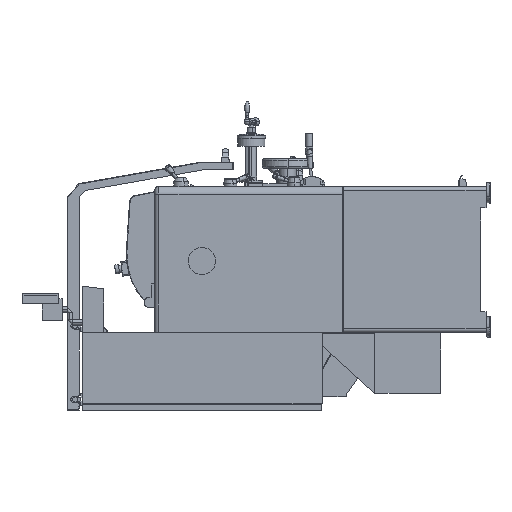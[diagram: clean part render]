
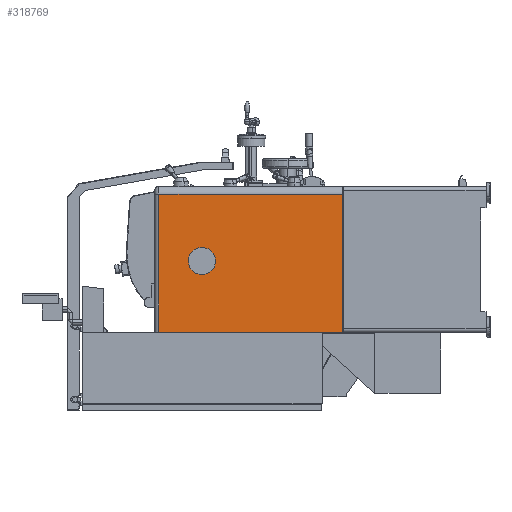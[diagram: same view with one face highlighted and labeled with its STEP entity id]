
A CAD part, left-side view. The second image highlights one B-rep face of the part: STEP entity #318769.
In plain terms, the highlighted planar face has unit normal (-1, 0, 0).
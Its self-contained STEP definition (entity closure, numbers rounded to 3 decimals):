
#1965 = DIRECTION ( 'NONE',  ( 0., 1., 0. ) ) ;
#19599 = CARTESIAN_POINT ( 'NONE',  ( -0.039, 22.047, -21.713 ) ) ;
#22922 = CARTESIAN_POINT ( 'NONE',  ( -0.039, 22.047, -21.713 ) ) ;
#28905 = VERTEX_POINT ( 'NONE', #337011 ) ;
#40050 = CARTESIAN_POINT ( 'NONE',  ( -0.039, 22.047, -21.713 ) ) ;
#42541 = DIRECTION ( 'NONE',  ( 1., 0., 0. ) ) ;
#50753 = LINE ( 'NONE', #113133, #309021 ) ;
#64259 = LINE ( 'NONE', #321831, #250664 ) ;
#87557 = LINE ( 'NONE', #336879, #332449 ) ;
#90908 = CARTESIAN_POINT ( 'NONE',  ( -0.039, 49.449, -21.713 ) ) ;
#111299 = CARTESIAN_POINT ( 'NONE',  ( -0.039, 49.449, -1.122 ) ) ;
#113133 = CARTESIAN_POINT ( 'NONE',  ( -0.039, 49.449, -21.909 ) ) ;
#116976 = VERTEX_POINT ( 'NONE', #90908 ) ;
#139920 = ORIENTED_EDGE ( 'NONE', *, *, #255878, .F. ) ;
#146321 = DIRECTION ( 'NONE',  ( 0., 0., -1. ) ) ;
#199852 = EDGE_LOOP ( 'NONE', ( #139920, #343020, #271745, #290577 ) ) ;
#246970 = VECTOR ( 'NONE', #266406, 39.37 ) ;
#250664 = VECTOR ( 'NONE', #1965, 39.37 ) ;
#255878 = EDGE_CURVE ( 'NONE', #116976, #320244, #50753, .T. ) ;
#266406 = DIRECTION ( 'NONE',  ( 0., -1., 0. ) ) ;
#271745 = ORIENTED_EDGE ( 'NONE', *, *, #272924, .T. ) ;
#272924 = EDGE_CURVE ( 'NONE', #320936, #28905, #87557, .T. ) ;
#290577 = ORIENTED_EDGE ( 'NONE', *, *, #411094, .T. ) ;
#295545 = LINE ( 'NONE', #40050, #246970 ) ;
#304179 = FACE_OUTER_BOUND ( 'NONE', #199852, .T. ) ;
#309021 = VECTOR ( 'NONE', #335370, 39.37 ) ;
#318769 = ADVANCED_FACE ( 'NONE', ( #304179 ), #364416, .F. ) ;
#320244 = VERTEX_POINT ( 'NONE', #111299 ) ;
#320936 = VERTEX_POINT ( 'NONE', #22922 ) ;
#321831 = CARTESIAN_POINT ( 'NONE',  ( -0.039, 22.047, -1.122 ) ) ;
#332449 = VECTOR ( 'NONE', #370038, 39.37 ) ;
#335126 = EDGE_CURVE ( 'NONE', #116976, #320936, #295545, .T. ) ;
#335370 = DIRECTION ( 'NONE',  ( 0., 0., 1. ) ) ;
#336879 = CARTESIAN_POINT ( 'NONE',  ( -0.039, 22.047, 0.059 ) ) ;
#337011 = CARTESIAN_POINT ( 'NONE',  ( -0.039, 22.047, -1.122 ) ) ;
#343020 = ORIENTED_EDGE ( 'NONE', *, *, #335126, .T. ) ;
#343273 = AXIS2_PLACEMENT_3D ( 'NONE', #19599, #42541, #146321 ) ;
#364416 = PLANE ( 'NONE',  #343273 ) ;
#370038 = DIRECTION ( 'NONE',  ( 0., 0., 1. ) ) ;
#411094 = EDGE_CURVE ( 'NONE', #28905, #320244, #64259, .T. ) ;
